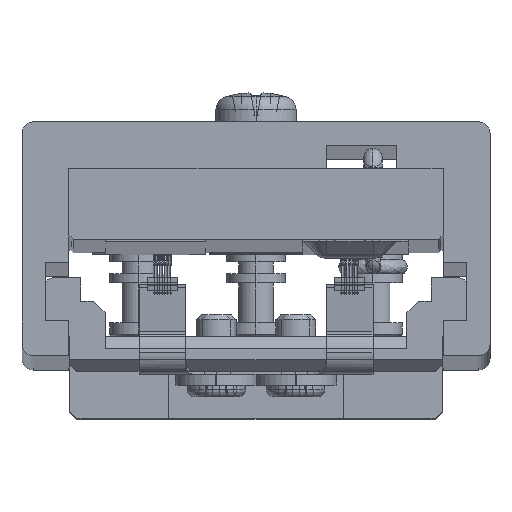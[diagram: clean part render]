
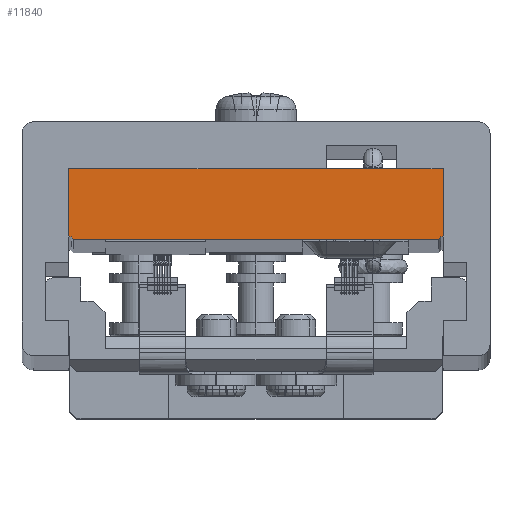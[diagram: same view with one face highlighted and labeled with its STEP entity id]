
A CAD part, top view. The second image highlights one B-rep face of the part: STEP entity #11840.
In plain terms, the highlighted planar face has unit normal (0, 0, 1).
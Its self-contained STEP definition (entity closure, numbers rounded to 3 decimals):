
#16 = EDGE_CURVE ( 'NONE', #8626, #6078, #10511, .T. ) ;
#392 = DIRECTION ( 'NONE',  ( -1., 0., 0. ) ) ;
#425 = LINE ( 'NONE', #15328, #14627 ) ;
#453 = DIRECTION ( 'NONE',  ( 0., -1., 0. ) ) ;
#640 = EDGE_CURVE ( 'NONE', #8611, #1601, #6301, .T. ) ;
#666 = DIRECTION ( 'NONE',  ( 0.707, 0.707, 0. ) ) ;
#855 = EDGE_CURVE ( 'NONE', #9762, #12623, #5722, .T. ) ;
#1092 = CARTESIAN_POINT ( 'NONE',  ( -1.4, -4.15, 339.5 ) ) ;
#1103 = CARTESIAN_POINT ( 'NONE',  ( 8., 2.35, 339.5 ) ) ;
#1357 = ORIENTED_EDGE ( 'NONE', *, *, #1464, .T. ) ;
#1407 = EDGE_CURVE ( 'NONE', #1601, #9762, #3667, .T. ) ;
#1464 = EDGE_CURVE ( 'NONE', #12623, #12192, #14805, .T. ) ;
#1579 = VERTEX_POINT ( 'NONE', #9015 ) ;
#1601 = VERTEX_POINT ( 'NONE', #11476 ) ;
#1609 = CARTESIAN_POINT ( 'NONE',  ( 6., 5.25, 339.5 ) ) ;
#2176 = ORIENTED_EDGE ( 'NONE', *, *, #11162, .T. ) ;
#2212 = CARTESIAN_POINT ( 'NONE',  ( 8., 2.35, 339.5 ) ) ;
#2638 = DIRECTION ( 'NONE',  ( 0.707, -0.707, 0. ) ) ;
#3099 = CARTESIAN_POINT ( 'NONE',  ( 8., 2.25, 339.5 ) ) ;
#3181 = CARTESIAN_POINT ( 'NONE',  ( 8., 5.25, 339.5 ) ) ;
#3234 = LINE ( 'NONE', #7946, #16065 ) ;
#3305 = ORIENTED_EDGE ( 'NONE', *, *, #7189, .T. ) ;
#3667 = LINE ( 'NONE', #5049, #4759 ) ;
#4212 = DIRECTION ( 'NONE',  ( -1., 0., 0. ) ) ;
#4340 = DIRECTION ( 'NONE',  ( 0., -1., 0. ) ) ;
#4759 = VECTOR ( 'NONE', #8532, 1000. ) ;
#4977 = EDGE_CURVE ( 'NONE', #12192, #15843, #11725, .T. ) ;
#5049 = CARTESIAN_POINT ( 'NONE',  ( 8., 2.25, 339.5 ) ) ;
#5118 = LINE ( 'NONE', #13748, #9668 ) ;
#5511 = PLANE ( 'NONE',  #13938 ) ;
#5722 = LINE ( 'NONE', #6939, #9156 ) ;
#6078 = VERTEX_POINT ( 'NONE', #10528 ) ;
#6151 = VECTOR ( 'NONE', #2638, 1000. ) ;
#6301 = LINE ( 'NONE', #1092, #6151 ) ;
#6370 = EDGE_CURVE ( 'NONE', #6078, #15721, #6590, .T. ) ;
#6590 = LINE ( 'NONE', #11561, #15611 ) ;
#6594 = ORIENTED_EDGE ( 'NONE', *, *, #640, .T. ) ;
#6756 = ORIENTED_EDGE ( 'NONE', *, *, #14696, .T. ) ;
#6885 = ORIENTED_EDGE ( 'NONE', *, *, #855, .T. ) ;
#6939 = CARTESIAN_POINT ( 'NONE',  ( 9.4, 3.85, 339.5 ) ) ;
#7189 = EDGE_CURVE ( 'NONE', #15721, #1579, #425, .T. ) ;
#7780 = CARTESIAN_POINT ( 'NONE',  ( 8., 5.25, 339.5 ) ) ;
#7880 = CARTESIAN_POINT ( 'NONE',  ( 7.8, 2.25, 339.5 ) ) ;
#7946 = CARTESIAN_POINT ( 'NONE',  ( 8., 5.25, 339.5 ) ) ;
#7949 = CARTESIAN_POINT ( 'NONE',  ( -7.9, 2.35, 339.5 ) ) ;
#8334 = EDGE_LOOP ( 'NONE', ( #3305, #2176, #6594, #15688, #6885, #1357, #15217, #6756, #12529, #14206 ) ) ;
#8532 = DIRECTION ( 'NONE',  ( 1., 0., 0. ) ) ;
#8611 = VERTEX_POINT ( 'NONE', #7949 ) ;
#8626 = VERTEX_POINT ( 'NONE', #1609 ) ;
#8911 = VECTOR ( 'NONE', #13102, 1000. ) ;
#9015 = CARTESIAN_POINT ( 'NONE',  ( -8., 2.35, 339.5 ) ) ;
#9156 = VECTOR ( 'NONE', #666, 1000. ) ;
#9668 = VECTOR ( 'NONE', #15046, 1000. ) ;
#9762 = VERTEX_POINT ( 'NONE', #7880 ) ;
#9931 = DIRECTION ( 'NONE',  ( 1., 0., 0. ) ) ;
#10014 = CARTESIAN_POINT ( 'NONE',  ( 8., 5.25, 339.5 ) ) ;
#10511 = LINE ( 'NONE', #3181, #8911 ) ;
#10513 = DIRECTION ( 'NONE',  ( 0., 1., 0. ) ) ;
#10528 = CARTESIAN_POINT ( 'NONE',  ( 3., 5.25, 339.5 ) ) ;
#10553 = FACE_OUTER_BOUND ( 'NONE', #8334, .T. ) ;
#11162 = EDGE_CURVE ( 'NONE', #1579, #8611, #5118, .T. ) ;
#11457 = DIRECTION ( 'NONE',  ( 0., 0., 1. ) ) ;
#11476 = CARTESIAN_POINT ( 'NONE',  ( -7.8, 2.25, 339.5 ) ) ;
#11519 = VECTOR ( 'NONE', #10513, 1000. ) ;
#11561 = CARTESIAN_POINT ( 'NONE',  ( 8., 5.25, 339.5 ) ) ;
#11725 = LINE ( 'NONE', #3099, #11519 ) ;
#11769 = VECTOR ( 'NONE', #9931, 1000. ) ;
#11840 = ADVANCED_FACE ( 'NONE', ( #10553 ), #5511, .T. ) ;
#12192 = VERTEX_POINT ( 'NONE', #1103 ) ;
#12529 = ORIENTED_EDGE ( 'NONE', *, *, #16, .T. ) ;
#12623 = VERTEX_POINT ( 'NONE', #15234 ) ;
#13102 = DIRECTION ( 'NONE',  ( -1., 0., 0. ) ) ;
#13431 = CARTESIAN_POINT ( 'NONE',  ( -8., 5.25, 339.5 ) ) ;
#13748 = CARTESIAN_POINT ( 'NONE',  ( 8., 2.35, 339.5 ) ) ;
#13938 = AXIS2_PLACEMENT_3D ( 'NONE', #7780, #11457, #453 ) ;
#14206 = ORIENTED_EDGE ( 'NONE', *, *, #6370, .T. ) ;
#14627 = VECTOR ( 'NONE', #4340, 1000. ) ;
#14696 = EDGE_CURVE ( 'NONE', #15843, #8626, #3234, .T. ) ;
#14805 = LINE ( 'NONE', #2212, #11769 ) ;
#15046 = DIRECTION ( 'NONE',  ( 1., 0., 0. ) ) ;
#15217 = ORIENTED_EDGE ( 'NONE', *, *, #4977, .T. ) ;
#15234 = CARTESIAN_POINT ( 'NONE',  ( 7.9, 2.35, 339.5 ) ) ;
#15328 = CARTESIAN_POINT ( 'NONE',  ( -8., 2.25, 339.5 ) ) ;
#15611 = VECTOR ( 'NONE', #392, 1000. ) ;
#15688 = ORIENTED_EDGE ( 'NONE', *, *, #1407, .T. ) ;
#15721 = VERTEX_POINT ( 'NONE', #13431 ) ;
#15843 = VERTEX_POINT ( 'NONE', #10014 ) ;
#16065 = VECTOR ( 'NONE', #4212, 1000. ) ;
